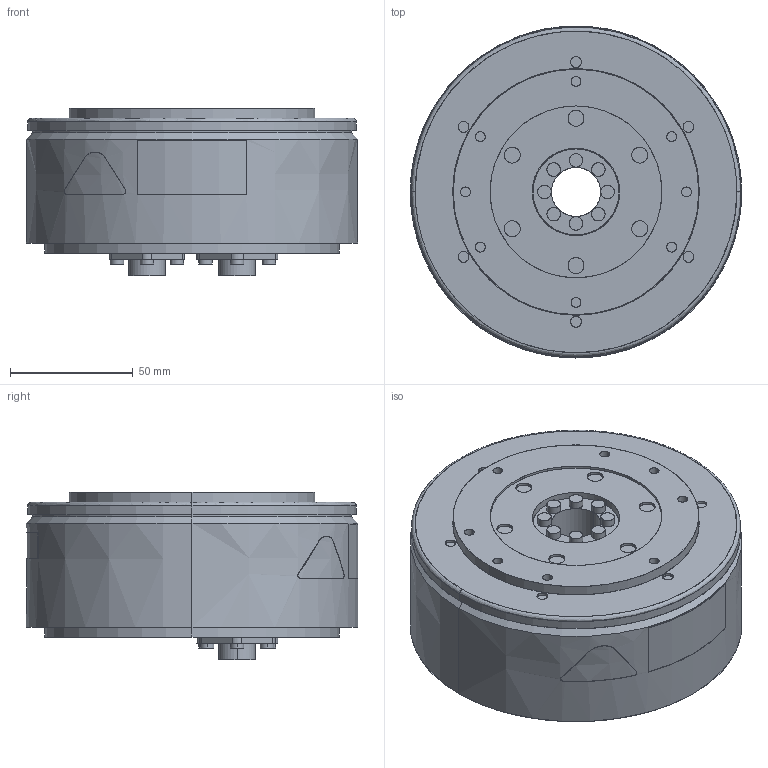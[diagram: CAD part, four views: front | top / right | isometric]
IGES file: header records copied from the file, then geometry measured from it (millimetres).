
Start section: SolidWorks IGES file using analytic representation for surfaces
Bounding box: 135 x 135.2 x 68.1 mm (x, y, z)
Surface area: 62254.2 mm2 (no closed solid volume)
Topology: 0 solids, 0 shells, 323 faces, 6598 edges, 6598 vertices
Faces by surface type: revolution 184, bspline 139
